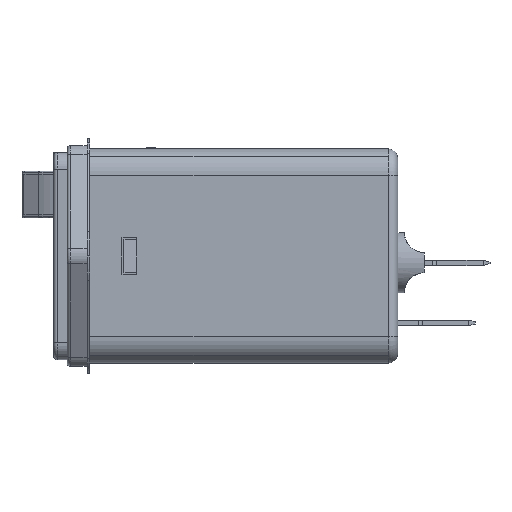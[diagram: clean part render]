
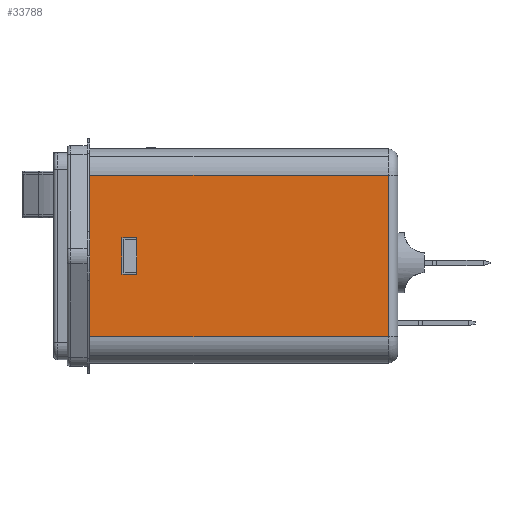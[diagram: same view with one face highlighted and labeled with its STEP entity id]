
A CAD part, front view. The second image highlights one B-rep face of the part: STEP entity #33788.
In plain terms, the highlighted planar face has unit normal (0, -1, 0).
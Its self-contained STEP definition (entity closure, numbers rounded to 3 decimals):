
#33699=CARTESIAN_POINT('',(12.4,-13.85,2.75));
#33700=VERTEX_POINT('',#33699);
#33707=CARTESIAN_POINT('',(10.2,-13.85,2.75));
#33708=VERTEX_POINT('',#33707);
#33709=CARTESIAN_POINT('',(10.2,-13.85,2.75));
#33710=DIRECTION('',(1.0,0.0,0.0));
#33711=VECTOR('',#33710,2.2);
#33712=LINE('',#33709,#33711);
#33713=EDGE_CURVE('',#33708,#33700,#33712,.T.);
#33724=CARTESIAN_POINT('',(51.4,-13.85,12.1));
#33725=DIRECTION('',(0.0,-1.0,0.0));
#33726=DIRECTION('',(-1.0,0.0,0.0));
#33727=AXIS2_PLACEMENT_3D('',#33724,#33725,#33726);
#33728=PLANE('',#33727);
#33729=CARTESIAN_POINT('',(5.4,-13.85,12.1));
#33730=VERTEX_POINT('',#33729);
#33731=CARTESIAN_POINT('',(5.4,-13.85,-12.1));
#33732=VERTEX_POINT('',#33731);
#33733=CARTESIAN_POINT('',(5.4,-13.85,12.1));
#33734=DIRECTION('',(0.0,0.0,-1.0));
#33735=VECTOR('',#33734,24.2);
#33736=LINE('',#33733,#33735);
#33737=EDGE_CURVE('',#33730,#33732,#33736,.T.);
#33738=ORIENTED_EDGE('',*,*,#33737,.T.);
#33739=CARTESIAN_POINT('',(50.,-13.85,-12.1));
#33740=VERTEX_POINT('',#33739);
#33741=CARTESIAN_POINT('',(50.,-13.85,-12.1));
#33742=DIRECTION('',(-1.0,0.0,0.0));
#33743=VECTOR('',#33742,44.6);
#33744=LINE('',#33741,#33743);
#33745=EDGE_CURVE('',#33740,#33732,#33744,.T.);
#33746=ORIENTED_EDGE('',*,*,#33745,.F.);
#33747=CARTESIAN_POINT('',(50.,-13.85,12.1));
#33748=VERTEX_POINT('',#33747);
#33749=CARTESIAN_POINT('',(50.,-13.85,12.1));
#33750=DIRECTION('',(0.0,0.0,-1.0));
#33751=VECTOR('',#33750,24.2);
#33752=LINE('',#33749,#33751);
#33753=EDGE_CURVE('',#33748,#33740,#33752,.T.);
#33754=ORIENTED_EDGE('',*,*,#33753,.F.);
#33755=CARTESIAN_POINT('',(50.,-13.85,12.1));
#33756=DIRECTION('',(-1.0,0.0,0.0));
#33757=VECTOR('',#33756,44.6);
#33758=LINE('',#33755,#33757);
#33759=EDGE_CURVE('',#33748,#33730,#33758,.T.);
#33760=ORIENTED_EDGE('',*,*,#33759,.T.);
#33761=EDGE_LOOP('',(#33738,#33746,#33754,#33760));
#33762=FACE_OUTER_BOUND('',#33761,.T.);
#33763=CARTESIAN_POINT('',(10.2,-13.85,-2.75));
#33764=VERTEX_POINT('',#33763);
#33765=CARTESIAN_POINT('',(10.2,-13.85,-2.75));
#33766=DIRECTION('',(0.0,0.0,1.0));
#33767=VECTOR('',#33766,5.5);
#33768=LINE('',#33765,#33767);
#33769=EDGE_CURVE('',#33764,#33708,#33768,.T.);
#33770=ORIENTED_EDGE('',*,*,#33769,.T.);
#33771=ORIENTED_EDGE('',*,*,#33713,.T.);
#33772=CARTESIAN_POINT('',(12.4,-13.85,-2.75));
#33773=VERTEX_POINT('',#33772);
#33774=CARTESIAN_POINT('',(12.4,-13.85,2.75));
#33775=DIRECTION('',(0.0,0.0,-1.0));
#33776=VECTOR('',#33775,5.5);
#33777=LINE('',#33774,#33776);
#33778=EDGE_CURVE('',#33700,#33773,#33777,.T.);
#33779=ORIENTED_EDGE('',*,*,#33778,.T.);
#33780=CARTESIAN_POINT('',(12.4,-13.85,-2.75));
#33781=DIRECTION('',(-1.0,0.0,0.0));
#33782=VECTOR('',#33781,2.2);
#33783=LINE('',#33780,#33782);
#33784=EDGE_CURVE('',#33773,#33764,#33783,.T.);
#33785=ORIENTED_EDGE('',*,*,#33784,.T.);
#33786=EDGE_LOOP('',(#33770,#33771,#33779,#33785));
#33787=FACE_BOUND('',#33786,.T.);
#33788=ADVANCED_FACE('',(#33762,#33787),#33728,.T.);
